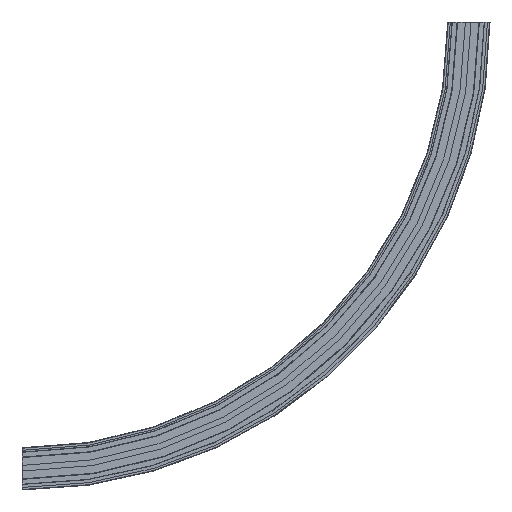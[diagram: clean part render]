
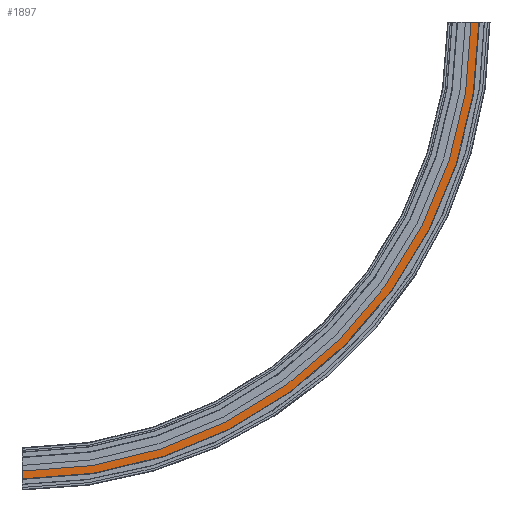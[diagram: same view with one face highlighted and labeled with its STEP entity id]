
A CAD part, front view. The second image highlights one B-rep face of the part: STEP entity #1897.
In plain terms, the highlighted planar face has unit normal (0, -1, 0).
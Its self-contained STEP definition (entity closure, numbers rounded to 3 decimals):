
#1839=CARTESIAN_POINT('',(880.5,-43.0,820.5));
#1840=VERTEX_POINT('',#1839);
#1847=CARTESIAN_POINT('',(0.0,-43.0,-60.));
#1848=VERTEX_POINT('',#1847);
#1849=CARTESIAN_POINT('',(0.,-43.0,820.5));
#1850=DIRECTION('',(0.0,-1.0,0.0));
#1851=DIRECTION('',(-1.0,0.0,0.0));
#1852=AXIS2_PLACEMENT_3D('',#1849,#1850,#1851);
#1853=CIRCLE('',#1852,880.5);
#1854=EDGE_CURVE('',#1848,#1840,#1853,.T.);
#1866=CARTESIAN_POINT('',(0.0,-43.0,-52.5));
#1867=DIRECTION('',(0.0,-1.0,0.0));
#1868=DIRECTION('',(0.0,0.0,-1.0));
#1869=AXIS2_PLACEMENT_3D('',#1866,#1867,#1868);
#1870=PLANE('',#1869);
#1871=CARTESIAN_POINT('',(865.5,-43.0,820.5));
#1872=VERTEX_POINT('',#1871);
#1873=CARTESIAN_POINT('',(880.5,-43.0,820.5));
#1874=DIRECTION('',(-1.0,0.0,0.0));
#1875=VECTOR('',#1874,15.);
#1876=LINE('',#1873,#1875);
#1877=EDGE_CURVE('',#1840,#1872,#1876,.T.);
#1878=ORIENTED_EDGE('',*,*,#1877,.T.);
#1879=CARTESIAN_POINT('',(0.0,-43.0,-45.));
#1880=VERTEX_POINT('',#1879);
#1881=CARTESIAN_POINT('',(0.,-43.0,820.5));
#1882=DIRECTION('',(0.0,-1.0,0.0));
#1883=DIRECTION('',(-1.0,0.0,0.0));
#1884=AXIS2_PLACEMENT_3D('',#1881,#1882,#1883);
#1885=CIRCLE('',#1884,865.5);
#1886=EDGE_CURVE('',#1880,#1872,#1885,.T.);
#1887=ORIENTED_EDGE('',*,*,#1886,.F.);
#1888=CARTESIAN_POINT('',(0.0,-43.0,-45.));
#1889=DIRECTION('',(0.0,0.0,-1.0));
#1890=VECTOR('',#1889,15.0);
#1891=LINE('',#1888,#1890);
#1892=EDGE_CURVE('',#1880,#1848,#1891,.T.);
#1893=ORIENTED_EDGE('',*,*,#1892,.T.);
#1894=ORIENTED_EDGE('',*,*,#1854,.T.);
#1895=EDGE_LOOP('',(#1878,#1887,#1893,#1894));
#1896=FACE_OUTER_BOUND('',#1895,.T.);
#1897=ADVANCED_FACE('',(#1896),#1870,.T.);
